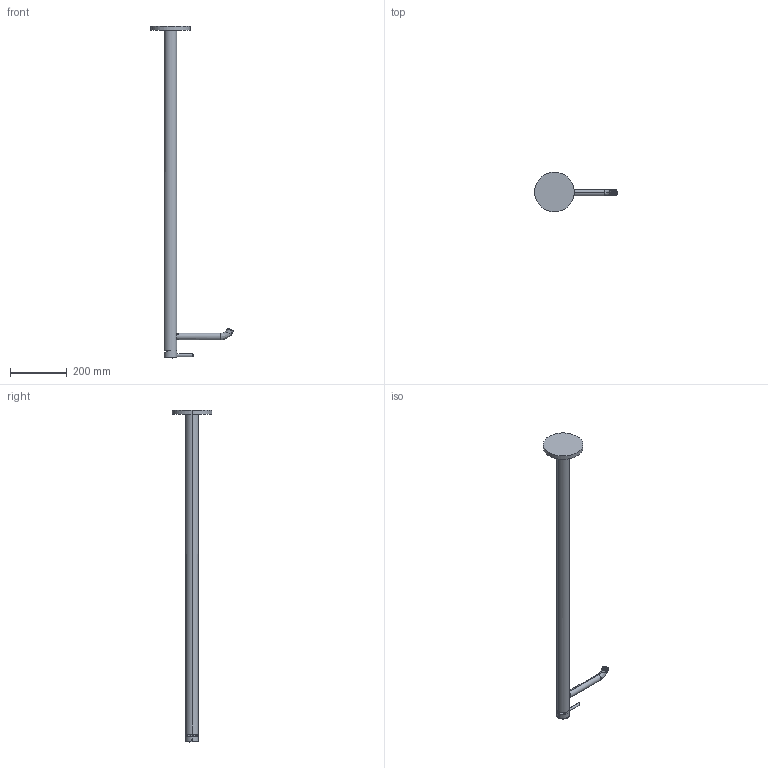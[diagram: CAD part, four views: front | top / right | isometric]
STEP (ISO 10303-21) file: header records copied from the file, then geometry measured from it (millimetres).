
FILE_DESCRIPTION (( 'STEP AP214' ), '1' );
FILE_NAME ('12319910 x architetti.STEP', '2024-09-16T07:21:06', ( '' ), ( '' ), 'SwSTEP 2.0', 'SolidWorks 2020', '' );
FILE_SCHEMA (( 'AUTOMOTIVE_DESIGN' ));
Length unit declared in the file: millimetre
Products named in the file (1): 12319910 x architetti
Bounding box: 292.25 x 140 x 1170.64 mm (x, y, z)
Volume: 2132353.1 mm3; surface area: 251234.3 mm2
Topology: 3 solids, 3 shells, 3957 faces, 11426 edges, 7390 vertices
Faces by surface type: plane 3349, cylinder 445, bspline 145, cone 18
Entity records: 186846 total; most frequent: CARTESIAN_POINT 50432, ORIENTED_EDGE 22844, DIRECTION 13809, EDGE_CURVE 11422, VERTEX_POINT 7390, LINE 5249, VECTOR 5249, B_SPLINE_CURVE_WITH_KNOTS 5064
